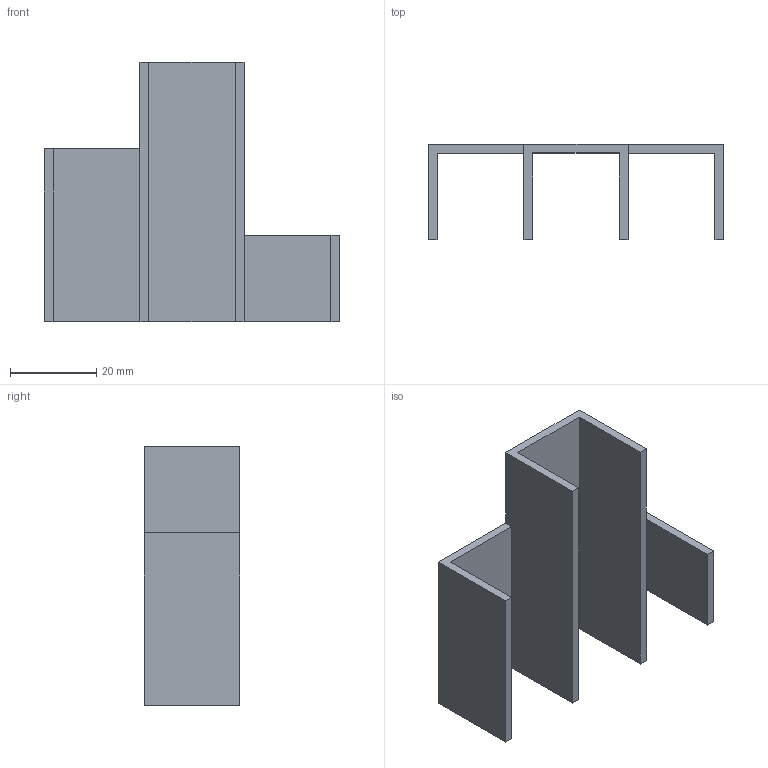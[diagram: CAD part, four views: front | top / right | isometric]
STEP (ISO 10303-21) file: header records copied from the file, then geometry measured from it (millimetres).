
FILE_DESCRIPTION(/* description */ (''),/* implementation_level */ '2;1');
FILE_NAME(/* name */ 'D:/3D Objects/250811のこ引きジグ/パズル寸法ジグ.stp',/* time_stamp */ '2025-08-14T18:44:42+09:00',/* author */ (''),/* organization */ (''),/* preprocessor_version */ 'ST-DEVELOPER v15.2',/* originating_system */ 'Autodesk Translator Framework v2.0.0.5431',/* authorisation */ '');
FILE_SCHEMA (('AUTOMOTIVE_DESIGN { 1 0 10303 214 3 1 1 }'));
Length unit declared in the file: centimetre
Products named in the file (1): 250814パズル寸法合体
Bounding box: 68.3 x 22 x 60 mm (x, y, z)
Volume: 12744 mm3; surface area: 13577.2 mm2
Topology: 1 solids, 1 shells, 20 faces, 54 edges, 36 vertices
Faces by surface type: plane 20
Entity records: 637 total; most frequent: CARTESIAN_POINT 111, ORIENTED_EDGE 108, DIRECTION 96, LINE 54, VECTOR 54, EDGE_CURVE 54, VERTEX_POINT 36, AXIS2_PLACEMENT_3D 21
